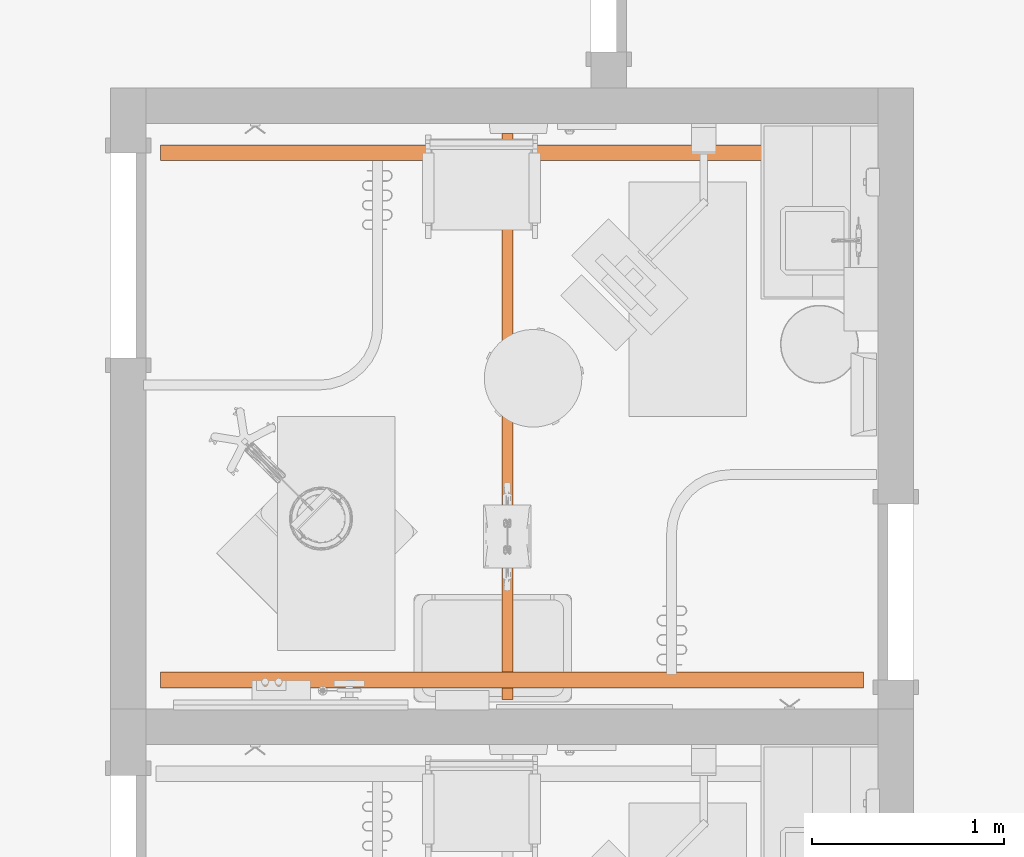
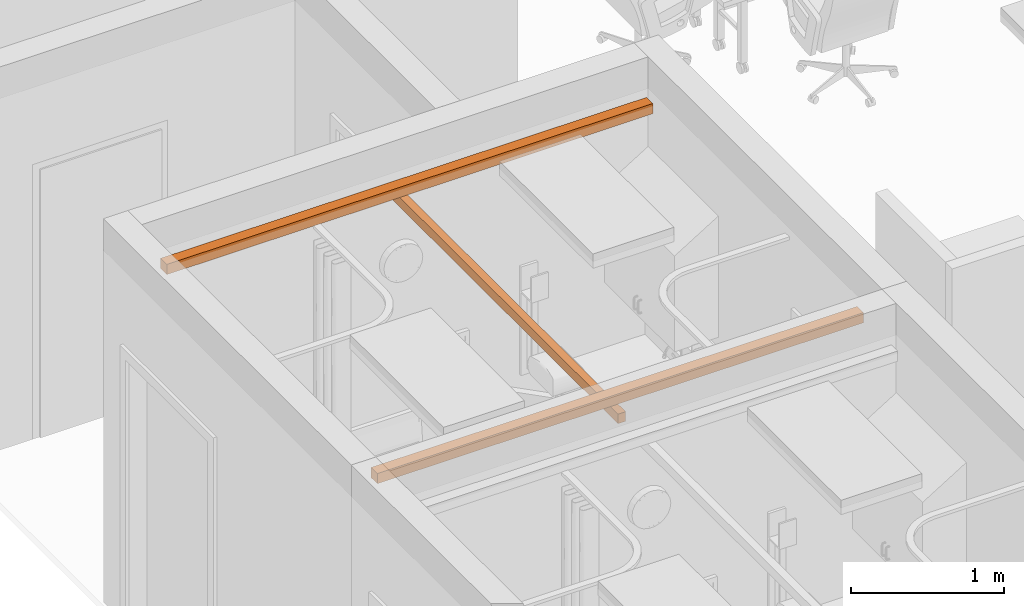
# One storey, part 25 of 142: 1 proxy.
"""IFC2X3 building model written with IfcOpenShell, lengths in feet."""

import ifcopenshell
import ifcopenshell.guid

model = None  # the IFC model being written
_history = None  # IfcOwnerHistory: only IFC2X3 demands one
_inside = {}  # id of a spatial element -> (the spatial element, [elements in it])
_under = {}  # id of a project, library or spatial element -> (it, [spatial elements below it])
_declared = {}  # id of a project -> (the project, [libraries it declares])
_typed = {}  # id of a type object -> (the type object, [elements of that type])
_made_of = {}  # id of a material, layer set ... -> (it, [elements and type objects made of it])


def new_model(schema):
    """Start an empty IFC model of exactly this schema.

    Asked for "IFC4X3", IfcOpenShell would pick the latest addendum, in which some entities
    have other attributes; the version numbers below select the first issue.
    IFC2X3 requires an IfcOwnerHistory on every rooted entity: one is made here for all.
    """
    global model, _history
    if schema == "IFC4X3":
        model = ifcopenshell.file(schema_version=(4, 3, 0, 0))
    else:
        model = ifcopenshell.file(schema=schema)
    _inside.clear()
    _under.clear()
    _declared.clear()
    _typed.clear()
    _made_of.clear()
    _history = None
    if model.schema == "IFC2X3":
        org = make("IfcOrganization", Name="unknown")
        user = make(
            "IfcPersonAndOrganization",
            ThePerson=make("IfcPerson", FamilyName="unknown"),
            TheOrganization=org,
        )
        app = make(
            "IfcApplication",
            ApplicationDeveloper=org,
            Version="unknown",
            ApplicationFullName="unknown",
            ApplicationIdentifier="unknown",
        )
        _history = make(
            "IfcOwnerHistory",
            OwningUser=user,
            OwningApplication=app,
            ChangeAction="ADDED",
            CreationDate=0,
        )
    return model


def make(cls, **values):
    """One entity of the class cls with the attributes given. An attribute that is None is left unset."""
    return model.create_entity(
        cls, **{name: value for name, value in values.items() if value is not None}
    )


def entity(cls, *values):
    """Any entity or typed value of the class cls, its attributes in the order of the schema. None: left unset."""
    e = model.create_entity(cls)
    for i, value in enumerate(values):
        if value is not None:
            e[i] = value
    return e


def rooted(cls, **values):
    """An entity with a GlobalId (a new one), such as an element, a storey or a relation."""
    return make(cls, GlobalId=ifcopenshell.guid.new(), OwnerHistory=_history, **values)


def si_unit(unit_type, name, prefix=None):
    """IfcSIUnit, for example si_unit("LENGTHUNIT", "METRE", prefix="MILLI")."""
    return make("IfcSIUnit", UnitType=unit_type, Prefix=prefix, Name=name)


def converted_unit(unit_type, name, factor, base, dimensions=None, offset=None):
    """IfcConversionBasedUnit, such as the inch: factor (a typed value) times the base unit."""
    return make(
        "IfcConversionBasedUnit"
        if offset is None
        else "IfcConversionBasedUnitWithOffset",
        ConversionOffset=offset,
        Dimensions=None
        if dimensions is None
        else entity("IfcDimensionalExponents", *dimensions),
        UnitType=unit_type,
        Name=name,
        ConversionFactor=make(
            "IfcMeasureWithUnit", ValueComponent=factor, UnitComponent=base
        ),
    )


def derived_unit(unit_type, elements):
    """IfcDerivedUnit: a product of units, each with its exponent."""
    return make(
        "IfcDerivedUnit",
        Elements=[
            make("IfcDerivedUnitElement", Unit=unit, Exponent=power)
            for unit, power in elements
        ],
        UnitType=unit_type,
    )


def assignment(units):
    """IfcUnitAssignment: the units of a project."""
    return None if units is None else make("IfcUnitAssignment", Units=units)


def point(xyz):
    """IfcCartesianPoint."""
    return None if xyz is None else make("IfcCartesianPoint", Coordinates=xyz)


def direction(xyz):
    """IfcDirection."""
    return None if xyz is None else make("IfcDirection", DirectionRatios=xyz)


def frame(location, z_axis=None, x_axis=None):
    """IfcAxis2Placement3D, a coordinate frame: its origin and axes. An axis left out is left unset."""
    return make(
        "IfcAxis2Placement3D",
        Location=point(location),
        Axis=direction(z_axis),
        RefDirection=direction(x_axis),
    )


def frame_2d(location, x_axis=None):
    """IfcAxis2Placement2D, a coordinate frame in the plane: its origin and x axis."""
    return make(
        "IfcAxis2Placement2D", Location=point(location), RefDirection=direction(x_axis)
    )


def origin():
    """The frame at (0, 0, 0) with its axes left unset."""
    return frame((0.0, 0.0, 0.0))


def place(relative_to, where):
    """IfcLocalPlacement: puts the frame where relative to a parent placement (None: the world)."""
    return make(
        "IfcLocalPlacement", PlacementRelTo=relative_to, RelativePlacement=where
    )


def context(
    kind, dimensions, precision=None, world=None, true_north=None, identifier=None
):
    """IfcGeometricRepresentationContext, for example the 3D "Model" context."""
    return make(
        "IfcGeometricRepresentationContext",
        ContextIdentifier=identifier,
        ContextType=kind,
        CoordinateSpaceDimension=dimensions,
        Precision=precision,
        WorldCoordinateSystem=world,
        TrueNorth=true_north,
    )


def subcontext(parent, identifier, kind, view, scale=None):
    """IfcGeometricRepresentationSubContext, for example "Body" below "Model"."""
    return make(
        "IfcGeometricRepresentationSubContext",
        ContextIdentifier=identifier,
        ContextType=kind,
        ParentContext=parent,
        TargetScale=scale,
        TargetView=view,
    )


def project(units=None, contexts=None):
    """IfcProject with its units and contexts."""
    return rooted(
        "IfcProject",
        Name="project",
        RepresentationContexts=contexts,
        UnitsInContext=assignment(units),
    )


def spatial(cls, under=None, at=None, **own):
    """A site, building, storey or space (cls), placed at a placement, below another one or the project."""
    s = rooted(cls, ObjectPlacement=at, **own)
    if under is not None:
        _under.setdefault(under.id(), (under, []))[1].append(s)
    return s


def profile(cls, at=None, kind="AREA", **sizes):
    """A parametric profile (cls). Its sizes go by their IFC names, for example OverallWidth=200.0."""
    return make(cls, ProfileType=kind, Position=at, **sizes)


def rectangle(**sizes):
    """IfcRectangleProfileDef."""
    return profile("IfcRectangleProfileDef", **sizes)


def extrude(swept, where, along, depth):
    """IfcExtrudedAreaSolid: the profile swept, set in the frame where, extruded along a direction by depth."""
    return make(
        "IfcExtrudedAreaSolid",
        SweptArea=swept,
        Position=where,
        ExtrudedDirection=direction(along),
        Depth=depth,
    )


def shape(context_of_items, identifier, shape_type, items):
    """IfcShapeRepresentation: the items that make up one representation, for example the "Body"."""
    return make(
        "IfcShapeRepresentation",
        ContextOfItems=context_of_items,
        RepresentationIdentifier=identifier,
        RepresentationType=shape_type,
        Items=items,
    )


def source(mapping_origin, context_of_items, identifier, shape_type, items):
    """IfcRepresentationMap: a shape defined once, which mapped items show again and again."""
    return make(
        "IfcRepresentationMap",
        MappingOrigin=mapping_origin,
        MappedRepresentation=shape(context_of_items, identifier, shape_type, items),
    )


def transform(
    local_origin,
    x_axis=None,
    y_axis=None,
    z_axis=None,
    scale=None,
    scale2=None,
    scale3=None,
    uniform=True,
):
    """IfcCartesianTransformationOperator3D, or its non-uniform kind. x_axis, y_axis, z_axis: its Axis1, 2, 3."""
    if uniform:
        return make(
            "IfcCartesianTransformationOperator3D",
            Axis1=direction(x_axis),
            Axis2=direction(y_axis),
            LocalOrigin=point(local_origin),
            Scale=scale,
            Axis3=direction(z_axis),
        )
    return make(
        "IfcCartesianTransformationOperator3DnonUniform",
        Axis1=direction(x_axis),
        Axis2=direction(y_axis),
        LocalOrigin=point(local_origin),
        Scale=scale,
        Axis3=direction(z_axis),
        Scale2=scale2,
        Scale3=scale3,
    )


def mapped(mapping_source, mapping_target):
    """IfcMappedItem: shows the shape of a source again, moved by a transform."""
    return make(
        "IfcMappedItem", MappingSource=mapping_source, MappingTarget=mapping_target
    )


def made_of(thing, what):
    """Note that an element or type object is made of a material, layer set ...; save() writes the relation."""
    if what is not None:
        _made_of.setdefault(what.id(), (what, []))[1].append(thing)
    return thing


def type_object(cls, material=None, **own):
    """A type object (cls), such as IfcWallType, which elements share."""
    return made_of(rooted(cls, **own), material)


def type_shapes(of_type, sources):
    """Give a type object the sources (RepresentationMaps) that its elements show as mapped items."""
    of_type.RepresentationMaps = sources


def element(
    cls,
    number,
    at=None,
    inside=None,
    cuts=None,
    type_object=None,
    material=None,
    context=None,
    identifier="Body",
    shape_type=None,
    held_by="IfcProductDefinitionShape",
    body=None,
    shapes=None,
    **own,
):
    """One element of the class cls, such as IfcWall. Its Tag is "e" and its number.

    at: its placement. inside: the storey or other place that contains it. cuts: it is an
    opening in that element (IfcRelVoidsElement). A single representation is given by context,
    identifier, shape_type and body (its items); several are given by shapes. held_by: the class
    of the entity that holds the representations. save() writes the other relations.
    """
    e = rooted(cls, Tag="e%d" % number, ObjectPlacement=at, **own)
    if body is not None:
        shapes = [shape(context, identifier, shape_type, body)]
    if shapes is not None:
        e.Representation = make(held_by, Representations=shapes)
    if inside is not None:
        _inside.setdefault(inside.id(), (inside, []))[1].append(e)
    if cuts is not None:
        rooted(
            "IfcRelVoidsElement", RelatingBuildingElement=cuts, RelatedOpeningElement=e
        )
    if type_object is not None:
        _typed.setdefault(type_object.id(), (type_object, []))[1].append(e)
    return made_of(e, material)


def aggregate(whole, parts):
    """IfcRelAggregates: a whole, such as a stair, and the parts it consists of."""
    return rooted("IfcRelAggregates", RelatingObject=whole, RelatedObjects=parts)


def save(model, path):
    """Write the relations noted so far, then the file.

    IfcRelAggregates (storeys below a building ...), IfcRelContainedInSpatialStructure (elements
    in a storey), IfcRelDefinesByType, IfcRelAssociatesMaterial and IfcRelDeclares: one each for
    every whole, place, type object, material and project.
    """
    for whole, parts in _under.values():
        aggregate(whole, parts)
    for where, things in _inside.values():
        rooted(
            "IfcRelContainedInSpatialStructure",
            RelatedElements=things,
            RelatingStructure=where,
        )
    for kind, things in _typed.values():
        rooted("IfcRelDefinesByType", RelatedObjects=things, RelatingType=kind)
    for what, things in _made_of.values():
        rooted("IfcRelAssociatesMaterial", RelatedObjects=things, RelatingMaterial=what)
    for by, libraries in _declared.values():
        rooted("IfcRelDeclares", RelatingContext=by, RelatedDefinitions=libraries)
    model.write(path)


model = new_model("IFC2X3")

# Units and contexts
model_context = context("Model", 3, precision=0.0001, world=origin(), true_north=direction((6.12303176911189e-17, 1.0)))
body_context = subcontext(model_context, "Body", "Model", "MODEL_VIEW")
ifc_project = project(units=[converted_unit("LENGTHUNIT", "FOOT", entity("IfcRatioMeasure", 0.3048), si_unit("LENGTHUNIT", "METRE"), dimensions=[1, 0, 0, 0, 0, 0, 0]), converted_unit("AREAUNIT", "SQUARE FOOT", entity("IfcRatioMeasure", 0.09290304), si_unit("AREAUNIT", "SQUARE_METRE"), dimensions=[2, 0, 0, 0, 0, 0, 0]), converted_unit("VOLUMEUNIT", "CUBIC FOOT", entity("IfcRatioMeasure", 0.028316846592), si_unit("VOLUMEUNIT", "CUBIC_METRE"), dimensions=[3, 0, 0, 0, 0, 0, 0]), converted_unit("PLANEANGLEUNIT", "DEGREE", entity("IfcRatioMeasure", 0.0174532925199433), si_unit("PLANEANGLEUNIT", "RADIAN"), dimensions=[0, 0, 0, 0, 0, 0, 0]), si_unit("MASSUNIT", "GRAM", prefix="KILO"), derived_unit("MASSDENSITYUNIT", [(si_unit("MASSUNIT", "GRAM", prefix="KILO"), 1), (si_unit("LENGTHUNIT", "METRE"), -3)]), si_unit("TIMEUNIT", "SECOND"), si_unit("FREQUENCYUNIT", "HERTZ"), si_unit("THERMODYNAMICTEMPERATUREUNIT", "DEGREE_CELSIUS"), derived_unit("THERMALTRANSMITTANCEUNIT", [(si_unit("MASSUNIT", "GRAM", prefix="KILO"), 1), (si_unit("THERMODYNAMICTEMPERATUREUNIT", "KELVIN"), -1), (si_unit("TIMEUNIT", "SECOND"), -3)]), derived_unit("VOLUMETRICFLOWRATEUNIT", [(si_unit("LENGTHUNIT", "METRE"), 3), (si_unit("TIMEUNIT", "SECOND"), -1)]), si_unit("ELECTRICCURRENTUNIT", "AMPERE"), si_unit("ELECTRICVOLTAGEUNIT", "VOLT"), si_unit("POWERUNIT", "WATT"), si_unit("FORCEUNIT", "NEWTON"), si_unit("ILLUMINANCEUNIT", "LUX"), si_unit("LUMINOUSFLUXUNIT", "LUMEN"), si_unit("LUMINOUSINTENSITYUNIT", "CANDELA"), derived_unit("USERDEFINED", [(si_unit("MASSUNIT", "GRAM", prefix="KILO"), -1), (si_unit("LENGTHUNIT", "METRE"), -2), (si_unit("TIMEUNIT", "SECOND"), 3), (si_unit("LUMINOUSFLUXUNIT", "LUMEN"), 1)]), derived_unit("LINEARVELOCITYUNIT", [(si_unit("LENGTHUNIT", "METRE"), 1), (si_unit("TIMEUNIT", "SECOND"), -1)]), si_unit("PRESSUREUNIT", "PASCAL"), derived_unit("USERDEFINED", [(si_unit("LENGTHUNIT", "METRE"), -2), (si_unit("MASSUNIT", "GRAM", prefix="KILO"), 1), (si_unit("TIMEUNIT", "SECOND"), -2)])], contexts=[model_context])

# Site, building, storey, space
site_placement = place(None, origin())
site = spatial("IfcSite", under=ifc_project, at=site_placement, Name="Default", CompositionType="ELEMENT")
building_placement = place(site_placement, origin())
building = spatial("IfcBuilding", under=site, at=building_placement, Name="OUTPATIENT / PACT CLINIC (Ch. 265)", CompositionType="ELEMENT")
storey_placement = place(building_placement, origin())
storey = spatial("IfcBuildingStorey", under=building, at=storey_placement, Name="LEVEL 1", CompositionType="ELEMENT", Elevation=0.0)
space_placement = place(storey_placement, origin())
space = spatial("IfcSpace", under=storey, at=space_placement, Name="EXPA01", CompositionType="ELEMENT", InteriorOrExteriorSpace="INTERNAL")

# Proxy
building_element_proxy_type = type_object("IfcBuildingElementProxyType", Name="A1203 Lift System, Overhead, Bariatric", PredefinedType="NOTDEFINED")
shared_shape = source(origin(), body_context, "Body", "SweptSolid", [
    extrude(rectangle(XDim=9.66757011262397, YDim=0.190288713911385, at=frame_2d((0.0, -6.93889390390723e-18), x_axis=(1.0, 0.0))), frame((0.244358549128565, 0.0796819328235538, 8.63910761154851), z_axis=(0.0, 0.0, 1.0), x_axis=(-1.0, 0.0, 0.0)), (0.0, 0.0, 1.0), 0.249343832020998),
    extrude(rectangle(XDim=11.9998599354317, YDim=0.267060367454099, at=frame_2d((0.0, 4.44089209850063e-16), x_axis=(1.0, 0.0))), frame((4.74481027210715, 0.0, 8.99015748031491), z_axis=(0.0, 0.0, 1.0), x_axis=(0.0, 1.0, 0.0)), (0.0, 0.0, 1.0), 0.265748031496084),
    extrude(rectangle(XDim=11.9998599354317, YDim=0.267060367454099, at=frame_2d((0.0, 4.44089209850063e-16), x_axis=(1.0, 0.0))), frame((-4.25609317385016, 0.0, 8.99015748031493), z_axis=(0.0, 0.0, 1.0), x_axis=(0.0, 1.0, 0.0)), (0.0, 0.0, 1.0), 0.265748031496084),
])
type_shapes(building_element_proxy_type, [shared_shape])
proxy_placement = place(space_placement, frame((397.213379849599, -916.081995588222, 0.0), z_axis=(0.0, 0.0, 1.0), x_axis=(0.0, 1.0, 0.0)))
element("IfcBuildingElementProxy", 1, at=proxy_placement, inside=space, type_object=building_element_proxy_type, Name="A1203 Lift System, Overhead, Bariatric (Traverse):A1203 Lift System, Overhead, Bariatric", ObjectType="A1203 Lift System, Overhead, Bariatric", context=body_context, shape_type="MappedRepresentation", body=[
    mapped(shared_shape, transform((0.0, 0.0, 0.0), scale=1.0)),
])

save(model, "model.ifc")
